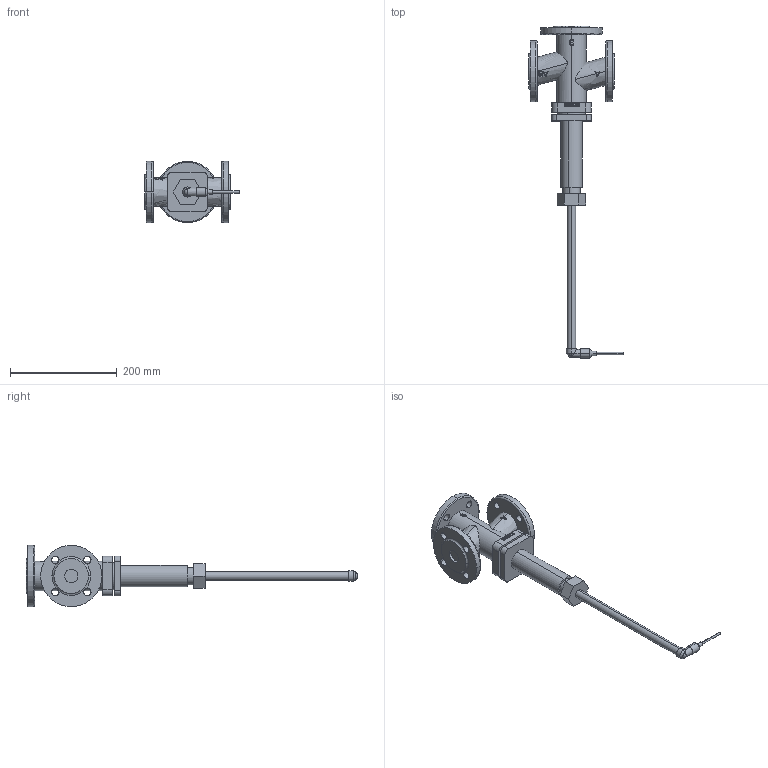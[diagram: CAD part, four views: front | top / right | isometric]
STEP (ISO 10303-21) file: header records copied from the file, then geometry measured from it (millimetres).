
FILE_DESCRIPTION (( 'STEP AP203' ), '1' );
FILE_NAME ('2803_2119_3M_DIN_025_016_EN-JL1040_B1_std_.STEP', '2010-09-14T10:11:08', ( '' ), ( '' ), 'SwSTEP 2.0', 'SolidWorks 2006303', '' );
FILE_SCHEMA (( 'CONFIG_CONTROL_DESIGN' ));
Length unit declared in the file: millimetre
Products named in the file (11): 01400392_Führungshaube_Standard; 04104846_Flansch_Standard; 00101120_Federrohrboden_Standard; 2803_2119_3M_DIN_025_016_EN-JL1040_B1_std_; 2803_2119_3M_DIN_025_016_EN-JL1040_B1_std_Standard; 03202016_Unterteil_Standard; Geh3244_3M_DIN_025_010-016_EN-JL1040_B1_std_01003287_Standard; 84131519_Dichtring_Standard; Thermostat_Typ2233_TL430_d25_Standard; Thermostat_Typ2233_Teil02_ohne Verlängerung_Standard; Rohr02_Standard
Assembly tree (11 placements, depth 3):
  2803_2119_3M_DIN_025_016_EN-JL1040_B1_std_
    2803_2119_3M_DIN_025_016_EN-JL1040_B1_std_Standard
      84131519_Dichtring_Standard  x2
      03202016_Unterteil_Standard
      01400392_Führungshaube_Standard
      00101120_Federrohrboden_Standard
      Geh3244_3M_DIN_025_010-016_EN-JL1040_B1_std_01003287_Standard
      04104846_Flansch_Standard
    Thermostat_Typ2233_TL430_d25_Standard
      Thermostat_Typ2233_Teil02_ohne Verlängerung_Standard
      Rohr02_Standard
Bounding box: 177 x 623.42 x 115 mm (x, y, z)
Volume: 1366703.2 mm3; surface area: 198939.2 mm2
Topology: 9 solids, 9 shells, 370 faces, 926 edges, 601 vertices
Faces by surface type: plane 153, bspline 105, cylinder 92, torus 12, cone 7, sphere 1
Entity records: 16117 total; most frequent: CARTESIAN_POINT 6668, ORIENTED_EDGE 1828, DIRECTION 1498, EDGE_CURVE 914, VERTEX_POINT 593, AXIS2_PLACEMENT_3D 543, EDGE_LOOP 419, VECTOR 412
